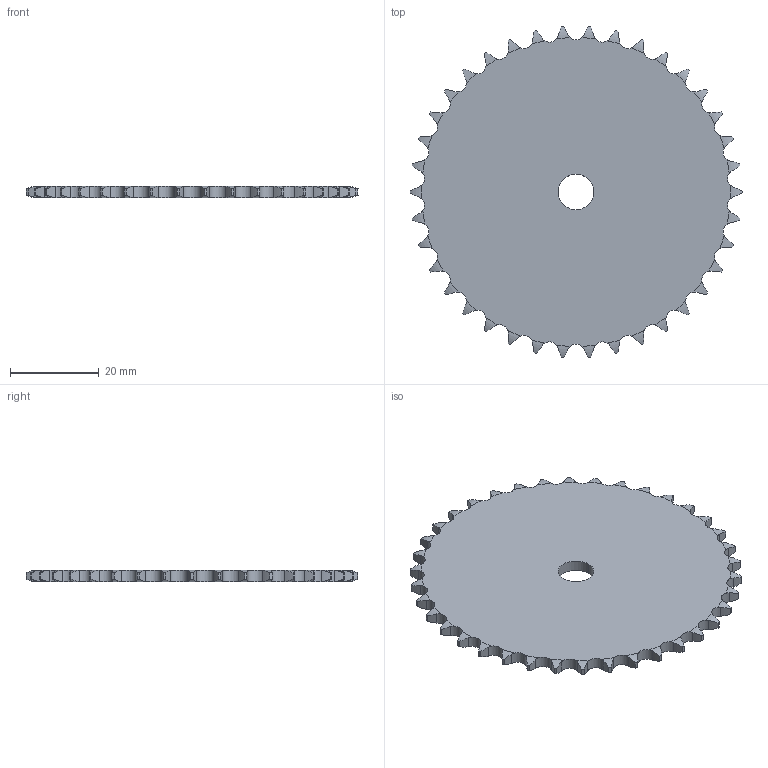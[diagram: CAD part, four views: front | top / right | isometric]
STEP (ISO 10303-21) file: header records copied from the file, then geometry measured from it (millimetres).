
FILE_DESCRIPTION((''),'2;1');
FILE_NAME('500-061-0038_PRT','2021-02-12T',('Brieden'),('Brieden'),'PRO/ENGINEER BY PARAMETRIC TECHNOLOGY CORPORATION, 2010160','PRO/ENGINEER BY PARAMETRIC TECHNOLOGY CORPORATION, 2010160','');
FILE_SCHEMA(('AUTOMOTIVE_DESIGN { 1 0 10303 214 1 1 1 1 }'));
Length unit declared in the file: millimetre
Products named in the file (1): 500-061-0038_PRT
Bounding box: 74.91 x 74.7 x 2.6 mm (x, y, z)
Volume: 10086.6 mm3; surface area: 8679.9 mm2
Topology: 1 solids, 1 shells, 232 faces, 690 edges, 460 vertices
Faces by surface type: cylinder 154, torus 76, plane 2
Entity records: 10782 total; most frequent: CARTESIAN_POINT 2785, ORIENTED_EDGE 1380, DIRECTION 1082, PRESENTATION_STYLE_ASSIGNMENT 691, STYLED_ITEM 691, CURVE_STYLE 690, EDGE_CURVE 690, AXIS2_PLACEMENT_3D 464
